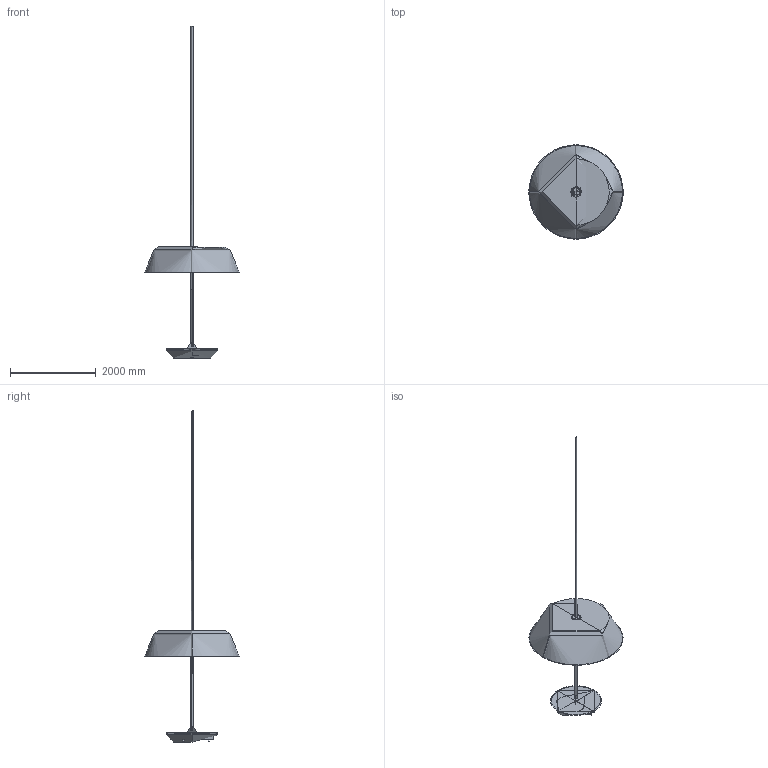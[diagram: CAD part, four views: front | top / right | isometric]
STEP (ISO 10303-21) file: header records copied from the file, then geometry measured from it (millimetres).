
FILE_DESCRIPTION(/* description */ (''),/* implementation_level */ '2;1');
FILE_NAME(/* name */ '1535',/* time_stamp */ '2022-01-18T15:26:59+01:00',/* author */ (''),/* organization */ (''),/* preprocessor_version */ 'ST-DEVELOPER v16.5',/* originating_system */ '',/* authorisation */ '');
FILE_SCHEMA (('CONFIG_CONTROL_DESIGN'));
Length unit declared in the file: centimetre
Products named in the file (1): Document
Bounding box: 2199.77 x 2199.54 x 7731.68 mm (x, y, z)
Volume: 233569332.9 mm3; surface area: 20082350.9 mm2
Topology: 8 solids, 9 shells, 127 faces, 289 edges, 188 vertices
Faces by surface type: cylinder 59, plane 34, bspline 34
Entity records: 4305 total; most frequent: CARTESIAN_POINT 2320, ORIENTED_EDGE 573, EDGE_CURVE 288, VERTEX_POINT 188, EDGE_LOOP 160, ADVANCED_FACE 127, FACE_OUTER_BOUND 127, DIRECTION 102
